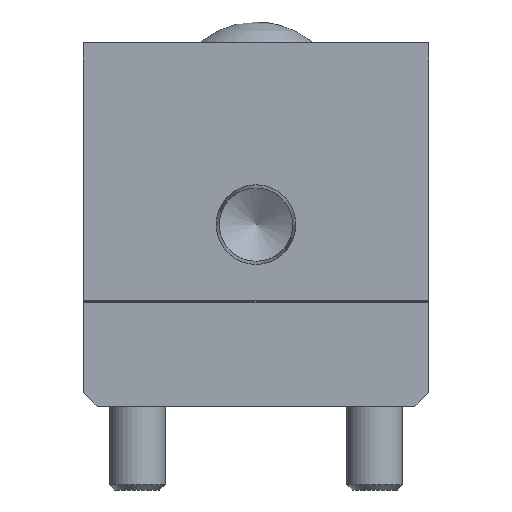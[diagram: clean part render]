
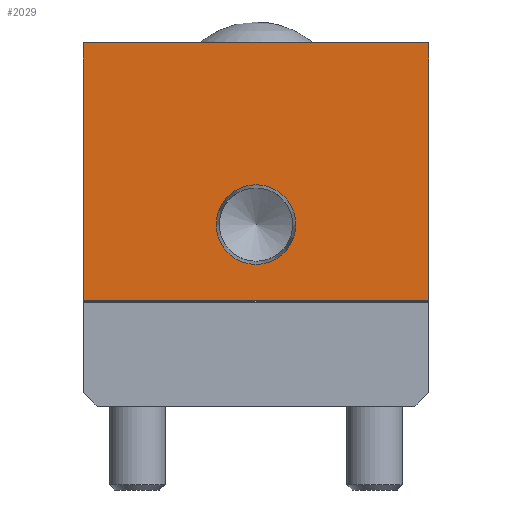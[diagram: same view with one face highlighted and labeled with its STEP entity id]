
A CAD part, front view. The second image highlights one B-rep face of the part: STEP entity #2029.
In plain terms, the highlighted planar face has unit normal (0, -1, 0).
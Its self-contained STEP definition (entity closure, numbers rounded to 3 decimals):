
#107=FACE_BOUND('',#438,.T.);
#154=CIRCLE('',#2157,5.704);
#280=FACE_OUTER_BOUND('',#437,.T.);
#437=EDGE_LOOP('',(#1534,#1535,#1536,#1537));
#438=EDGE_LOOP('',(#1538));
#623=LINE('',#3063,#793);
#626=LINE('',#3068,#796);
#628=LINE('',#3076,#798);
#642=LINE('',#3112,#812);
#793=VECTOR('',#2473,36.9);
#796=VECTOR('',#2478,49.5);
#798=VECTOR('',#2486,36.9);
#812=VECTOR('',#2530,49.5);
#946=VERTEX_POINT('',#3060);
#947=VERTEX_POINT('',#3062);
#948=VERTEX_POINT('',#3066);
#951=VERTEX_POINT('',#3074);
#955=VERTEX_POINT('',#3088);
#1140=EDGE_CURVE('',#947,#946,#623,.T.);
#1143=EDGE_CURVE('',#946,#948,#626,.T.);
#1147=EDGE_CURVE('',#951,#948,#628,.T.);
#1152=EDGE_CURVE('',#955,#955,#154,.T.);
#1165=EDGE_CURVE('',#951,#947,#642,.T.);
#1534=ORIENTED_EDGE('',*,*,#1165,.T.);
#1535=ORIENTED_EDGE('',*,*,#1140,.T.);
#1536=ORIENTED_EDGE('',*,*,#1143,.T.);
#1537=ORIENTED_EDGE('',*,*,#1147,.F.);
#1538=ORIENTED_EDGE('',*,*,#1152,.T.);
#1825=PLANE('',#2190);
#2029=ADVANCED_FACE('',(#280,#107),#1825,.T.);
#2157=AXIS2_PLACEMENT_3D('',#3089,#2501,#2502);
#2190=AXIS2_PLACEMENT_3D('',#3150,#2584,#2585);
#2473=DIRECTION('',(0.,0.,1.));
#2478=DIRECTION('',(-1.,0.,0.));
#2486=DIRECTION('',(0.,0.,1.));
#2501=DIRECTION('center_axis',(0.,1.,0.));
#2502=DIRECTION('ref_axis',(1.,0.,0.));
#2530=DIRECTION('',(1.,0.,0.));
#2584=DIRECTION('center_axis',(0.,-1.,0.));
#2585=DIRECTION('ref_axis',(0.,0.,-1.));
#3060=CARTESIAN_POINT('',(24.75,0.,52.));
#3062=CARTESIAN_POINT('',(24.75,0.,15.1));
#3063=CARTESIAN_POINT('',(24.75,0.,0.));
#3066=CARTESIAN_POINT('',(-24.75,0.,52.));
#3068=CARTESIAN_POINT('',(24.75,0.,52.));
#3074=CARTESIAN_POINT('',(-24.75,0.,15.1));
#3076=CARTESIAN_POINT('',(-24.75,0.,0.));
#3088=CARTESIAN_POINT('',(5.704,0.,26.));
#3089=CARTESIAN_POINT('Origin',(0.,0.,26.));
#3112=CARTESIAN_POINT('',(24.75,0.,15.1));
#3150=CARTESIAN_POINT('Origin',(24.75,0.,0.));
